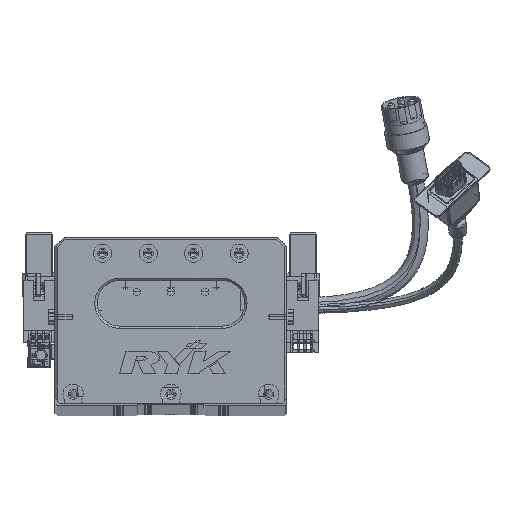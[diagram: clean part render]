
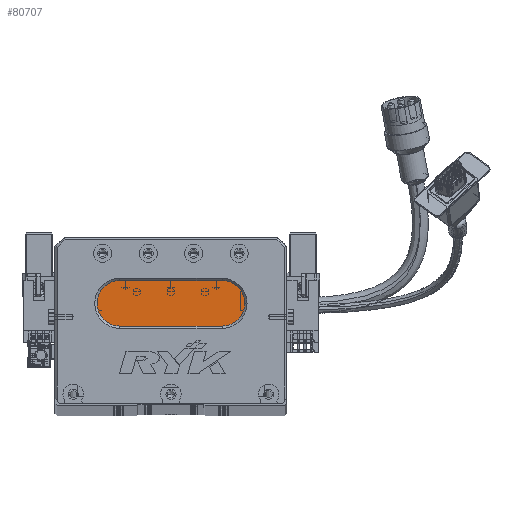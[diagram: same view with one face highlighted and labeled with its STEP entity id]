
A CAD part, top view. The second image highlights one B-rep face of the part: STEP entity #80707.
In plain terms, the highlighted planar face has unit normal (0, 0, 1) as drawn and (0, 0, -1) by its records, which use the part's own axes.
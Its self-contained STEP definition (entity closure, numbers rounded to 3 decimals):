
#3062 = CARTESIAN_POINT ( 'NONE',  ( 28.5, 34., 13. ) ) ;
#4359 = EDGE_CURVE ( 'NONE', #52053, #5896, #5373, .T. ) ;
#5373 = LINE ( 'NONE', #62445, #38742 ) ;
#5896 = VERTEX_POINT ( 'NONE', #3062 ) ;
#6475 = VERTEX_POINT ( 'NONE', #62432 ) ;
#7310 = DIRECTION ( 'NONE',  ( 0., 0., -1. ) ) ;
#11032 = EDGE_CURVE ( 'NONE', #5896, #67224, #48934, .T. ) ;
#17370 = DIRECTION ( 'NONE',  ( 1., 0., 0. ) ) ;
#18187 = LINE ( 'NONE', #51779, #59927 ) ;
#20192 = DIRECTION ( 'NONE',  ( -1., 0., 0. ) ) ;
#26967 = DIRECTION ( 'NONE',  ( 0., 0., -1. ) ) ;
#28323 = DIRECTION ( 'NONE',  ( -1., 0., 0. ) ) ;
#32258 = CARTESIAN_POINT ( 'NONE',  ( 73.5, 34., 13. ) ) ;
#36451 = AXIS2_PLACEMENT_3D ( 'NONE', #65530, #41045, #40753 ) ;
#36977 = EDGE_CURVE ( 'NONE', #51108, #52053, #60307, .T. ) ;
#38742 = VECTOR ( 'NONE', #28323, 1000. ) ;
#40753 = DIRECTION ( 'NONE',  ( -1., 0., 0. ) ) ;
#41045 = DIRECTION ( 'NONE',  ( 0., 0., -1. ) ) ;
#41167 = EDGE_CURVE ( 'NONE', #67224, #6475, #42025, .T. ) ;
#41840 = ORIENTED_EDGE ( 'NONE', *, *, #4359, .T. ) ;
#42025 = CIRCLE ( 'NONE', #44032, 10. ) ;
#44032 = AXIS2_PLACEMENT_3D ( 'NONE', #52979, #26967, #73960 ) ;
#48934 = CIRCLE ( 'NONE', #76065, 10. ) ;
#50189 = ORIENTED_EDGE ( 'NONE', *, *, #11032, .T. ) ;
#51108 = VERTEX_POINT ( 'NONE', #60879 ) ;
#51779 = CARTESIAN_POINT ( 'NONE',  ( 73.5, 54., 13. ) ) ;
#52053 = VERTEX_POINT ( 'NONE', #32258 ) ;
#52979 = CARTESIAN_POINT ( 'NONE',  ( 28.5, 44., 13. ) ) ;
#59927 = VECTOR ( 'NONE', #17370, 1000. ) ;
#60307 = CIRCLE ( 'NONE', #36451, 10. ) ;
#60365 = PLANE ( 'NONE',  #72314 ) ;
#60879 = CARTESIAN_POINT ( 'NONE',  ( 73.5, 54., 13. ) ) ;
#61544 = CARTESIAN_POINT ( 'NONE',  ( 18.5, 44., 13. ) ) ;
#62432 = CARTESIAN_POINT ( 'NONE',  ( 28.5, 54., 13. ) ) ;
#62445 = CARTESIAN_POINT ( 'NONE',  ( 73.5, 34., 13. ) ) ;
#65530 = CARTESIAN_POINT ( 'NONE',  ( 73.5, 44., 13. ) ) ;
#66771 = CARTESIAN_POINT ( 'NONE',  ( 73.5, 44., 13. ) ) ;
#67137 = CARTESIAN_POINT ( 'NONE',  ( 28.5, 44., 13. ) ) ;
#67224 = VERTEX_POINT ( 'NONE', #61544 ) ;
#68090 = EDGE_CURVE ( 'NONE', #6475, #51108, #18187, .T. ) ;
#72314 = AXIS2_PLACEMENT_3D ( 'NONE', #66771, #7310, #79353 ) ;
#72857 = FACE_OUTER_BOUND ( 'NONE', #81833, .T. ) ;
#73861 = DIRECTION ( 'NONE',  ( 0., 0., -1. ) ) ;
#73960 = DIRECTION ( 'NONE',  ( -1., 0., 0. ) ) ;
#74305 = ORIENTED_EDGE ( 'NONE', *, *, #36977, .T. ) ;
#76065 = AXIS2_PLACEMENT_3D ( 'NONE', #67137, #73861, #20192 ) ;
#79353 = DIRECTION ( 'NONE',  ( -1., 0., 0. ) ) ;
#80707 = ADVANCED_FACE ( 'NONE', ( #72857 ), #60365, .T. ) ;
#81833 = EDGE_LOOP ( 'NONE', ( #74305, #41840, #50189, #82307, #84147 ) ) ;
#82307 = ORIENTED_EDGE ( 'NONE', *, *, #41167, .T. ) ;
#84147 = ORIENTED_EDGE ( 'NONE', *, *, #68090, .T. ) ;
